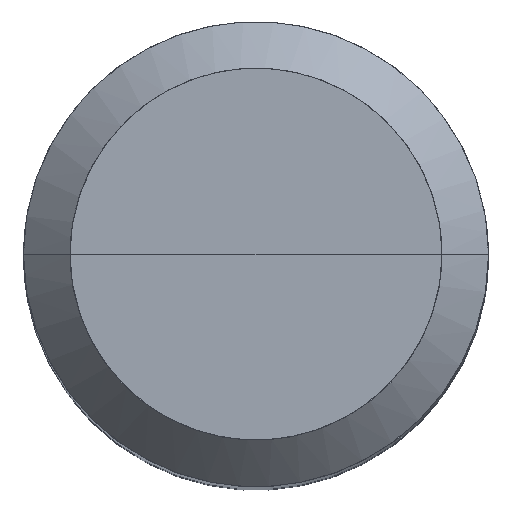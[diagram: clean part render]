
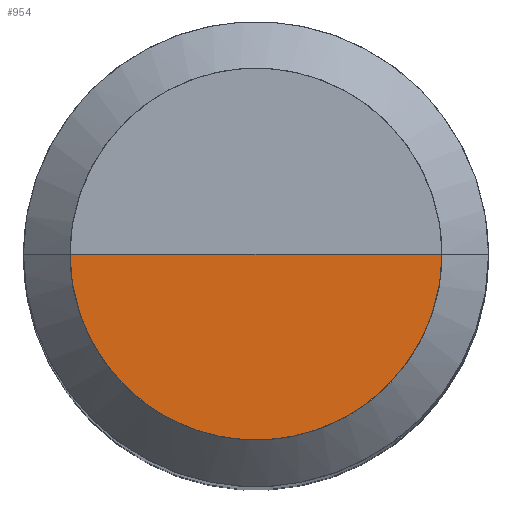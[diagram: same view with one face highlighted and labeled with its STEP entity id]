
A CAD part, top view. The second image highlights one B-rep face of the part: STEP entity #954.
In plain terms, the highlighted free-form (B-spline) face has degree [1, 2] with [2, 5] control points.
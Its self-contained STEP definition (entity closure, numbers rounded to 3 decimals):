
#685=CARTESIAN_POINT('',(4.8,0.0,40.0));
#689=CARTESIAN_POINT('',(-4.8,0.0,40.0));
#690=CARTESIAN_POINT('',(0.0,0.0,40.0));
#694=CARTESIAN_POINT('',(-4.8,-4.8,40.0));
#695=CARTESIAN_POINT('',(0.0,-4.8,40.0));
#696=CARTESIAN_POINT('',(4.8,-4.8,40.0));
#939=(
BOUNDED_SURFACE()
B_SPLINE_SURFACE(1,2,(
(#689,#694,#695,#696,#685),
(#690,#690,#690,#690,#690)
), .UNSPECIFIED.,.F.,.F.,.F.)
B_SPLINE_SURFACE_WITH_KNOTS((2,2),(3,2,3),(
0.0,1.0),(
0.0,0.5,1.0), .UNSPECIFIED.)
GEOMETRIC_REPRESENTATION_ITEM()
RATIONAL_B_SPLINE_SURFACE(((1.0,0.707,1.0,0.707,1.0),
(1.0,0.707,1.0,0.707,1.0)
))
REPRESENTATION_ITEM('')
SURFACE()
);
#940=(
BOUNDED_CURVE()
B_SPLINE_CURVE(2,(#685,#696,#695,#694,#689),.UNSPECIFIED.,.F.,.F.)
B_SPLINE_CURVE_WITH_KNOTS((3,2,3),
(0.0,0.5,1.0),.UNSPECIFIED.)
CURVE()
GEOMETRIC_REPRESENTATION_ITEM()
RATIONAL_B_SPLINE_CURVE((1.0,0.707,1.0,0.707,1.0))
REPRESENTATION_ITEM('')
);
#941=(
BOUNDED_CURVE()
B_SPLINE_CURVE(1,(#689,#690),.UNSPECIFIED.,.F.,.F.)
B_SPLINE_CURVE_WITH_KNOTS((2,2),
(0.0,1.0),.UNSPECIFIED.)
CURVE()
GEOMETRIC_REPRESENTATION_ITEM()
RATIONAL_B_SPLINE_CURVE((1.0,1.0))
REPRESENTATION_ITEM('')
);
#942=(
BOUNDED_CURVE()
B_SPLINE_CURVE(1,(#690,#685),.UNSPECIFIED.,.F.,.F.)
B_SPLINE_CURVE_WITH_KNOTS((2,2),
(0.0,1.0),.UNSPECIFIED.)
CURVE()
GEOMETRIC_REPRESENTATION_ITEM()
RATIONAL_B_SPLINE_CURVE((1.0,1.0))
REPRESENTATION_ITEM('')
);
#943=VERTEX_POINT('',#685);
#944=VERTEX_POINT('',#689);
#945=VERTEX_POINT('',#690);
#946=EDGE_CURVE('',#943,#944,#940,.T.);
#947=EDGE_CURVE('',#944,#945,#941,.T.);
#948=EDGE_CURVE('',#945,#943,#942,.T.);
#949=ORIENTED_EDGE('',*,*,#946,.T.);
#950=ORIENTED_EDGE('',*,*,#947,.T.);
#951=ORIENTED_EDGE('',*,*,#948,.T.);
#952=EDGE_LOOP('',(#949,#950,#951));
#953=FACE_OUTER_BOUND('',#952,.T.);
#954=ADVANCED_FACE('',(#953),#939,.T.);
